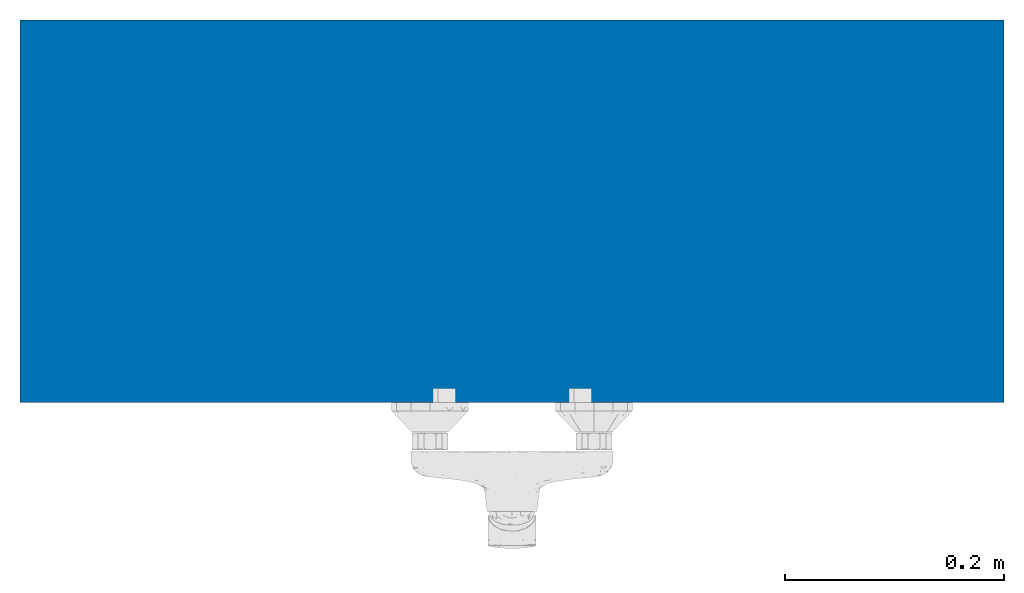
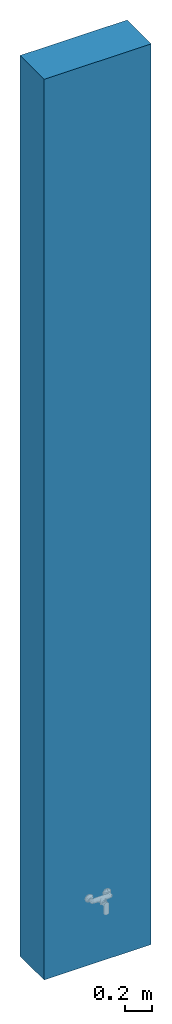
# One storey, incomplete: 1 wall.
"""IFC2X3 building model written with IfcOpenShell, lengths in millimetres."""

from ifc_helpers import new_model, entity, si_unit, converted_unit, derived_unit, direction, frame, frame_2d, origin, place, context, subcontext, project, spatial, rectangle, extrude, type_object, element, save


model = new_model("IFC2X3")

# Units and contexts
model_context = context("Model", 3, precision=0.01, world=origin(), true_north=direction((6.12303176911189e-17, 1.0)))
body_context = subcontext(model_context, "Body", "Model", "MODEL_VIEW")
ifc_project = project(units=[si_unit("LENGTHUNIT", "METRE", prefix="MILLI"), si_unit("AREAUNIT", "SQUARE_METRE"), si_unit("VOLUMEUNIT", "CUBIC_METRE"), converted_unit("PLANEANGLEUNIT", "DEGREE", entity("IfcRatioMeasure", 0.0174532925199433), si_unit("PLANEANGLEUNIT", "RADIAN"), dimensions=[0, 0, 0, 0, 0, 0, 0]), si_unit("MASSUNIT", "GRAM", prefix="KILO"), derived_unit("MASSDENSITYUNIT", [(si_unit("MASSUNIT", "GRAM", prefix="KILO"), 1), (si_unit("LENGTHUNIT", "METRE"), -3)]), derived_unit("MOMENTOFINERTIAUNIT", [(si_unit("LENGTHUNIT", "METRE"), 4)]), si_unit("TIMEUNIT", "SECOND"), si_unit("FREQUENCYUNIT", "HERTZ"), si_unit("THERMODYNAMICTEMPERATUREUNIT", "DEGREE_CELSIUS"), derived_unit("THERMALTRANSMITTANCEUNIT", [(si_unit("MASSUNIT", "GRAM", prefix="KILO"), 1), (si_unit("THERMODYNAMICTEMPERATUREUNIT", "KELVIN"), -1), (si_unit("TIMEUNIT", "SECOND"), -3)]), derived_unit("VOLUMETRICFLOWRATEUNIT", [(si_unit("LENGTHUNIT", "METRE"), 3), (si_unit("TIMEUNIT", "SECOND"), -1)]), si_unit("ELECTRICCURRENTUNIT", "AMPERE"), si_unit("ELECTRICVOLTAGEUNIT", "VOLT"), si_unit("POWERUNIT", "WATT"), si_unit("FORCEUNIT", "NEWTON", prefix="KILO"), si_unit("ILLUMINANCEUNIT", "LUX"), si_unit("LUMINOUSFLUXUNIT", "LUMEN"), si_unit("LUMINOUSINTENSITYUNIT", "CANDELA"), derived_unit("USERDEFINED", [(si_unit("MASSUNIT", "GRAM", prefix="KILO"), -1), (si_unit("LENGTHUNIT", "METRE"), -2), (si_unit("TIMEUNIT", "SECOND"), 3), (si_unit("LUMINOUSFLUXUNIT", "LUMEN"), 1)]), derived_unit("LINEARVELOCITYUNIT", [(si_unit("LENGTHUNIT", "METRE"), 1), (si_unit("TIMEUNIT", "SECOND"), -1)]), si_unit("PRESSUREUNIT", "PASCAL"), derived_unit("USERDEFINED", [(si_unit("LENGTHUNIT", "METRE"), -2), (si_unit("MASSUNIT", "GRAM", prefix="KILO"), 1), (si_unit("TIMEUNIT", "SECOND"), -2)]), derived_unit("LINEARFORCEUNIT", [(si_unit("MASSUNIT", "GRAM", prefix="KILO"), 1), (si_unit("LENGTHUNIT", "METRE"), 1), (si_unit("TIMEUNIT", "SECOND"), -2), (si_unit("LENGTHUNIT", "METRE"), -1)]), derived_unit("PLANARFORCEUNIT", [(si_unit("MASSUNIT", "GRAM", prefix="KILO"), 1), (si_unit("LENGTHUNIT", "METRE"), 1), (si_unit("TIMEUNIT", "SECOND"), -2), (si_unit("LENGTHUNIT", "METRE"), -2)])], contexts=[model_context])

# Site, building, storey
site_placement = place(None, origin())
site = spatial("IfcSite", under=ifc_project, at=site_placement, Name="Default", CompositionType="ELEMENT")
building_placement = place(site_placement, origin())
building = spatial("IfcBuilding", under=site, at=building_placement, CompositionType="ELEMENT")
storey_placement = place(building_placement, origin())
storey = spatial("IfcBuildingStorey", under=building, at=storey_placement, Name="Level 1", CompositionType="ELEMENT", Elevation=0.0)

# Wall
wall_type = type_object("IfcWallType", Name="Basic Wall:Exterior - Brick on Mtl. Stud", PredefinedType="STANDARD")
wall_placement = place(storey_placement, frame((-14095.0450789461, 6057.13210094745, 0.0)))
element("IfcWallStandardCase", 1, at=wall_placement, inside=storey, type_object=wall_type, Name="Basic Wall:Exterior - Brick on Mtl. Stud", ObjectType="Basic Wall:Exterior - Brick on Mtl. Stud", context=body_context, shape_type="SweptSolid", body=[
    extrude(rectangle(XDim=900.000000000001, YDim=350.000000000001, at=frame_2d((450.000000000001, 2.8421709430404e-14), x_axis=(-1.0, 0.0))), origin(), (0.0, 0.0, 1.0), 8000.0),
])

save(model, "model.ifc")
